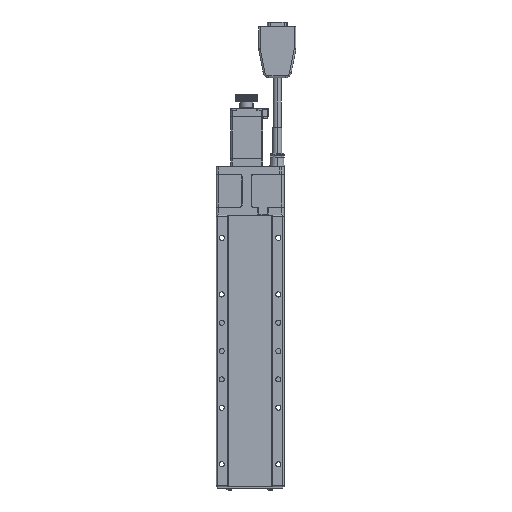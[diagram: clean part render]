
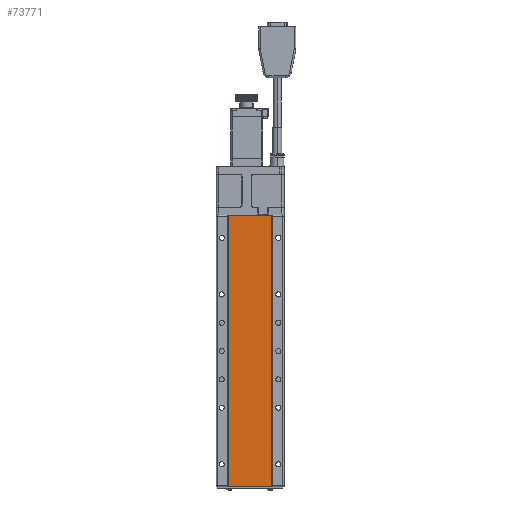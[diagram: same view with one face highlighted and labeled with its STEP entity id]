
A CAD part, front view. The second image highlights one B-rep face of the part: STEP entity #73771.
In plain terms, the highlighted planar face has unit normal (0, -1, 0).
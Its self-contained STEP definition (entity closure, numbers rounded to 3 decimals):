
#4458 = DIRECTION ( 'NONE',  ( 1., 0., 0. ) ) ;
#4650 = VECTOR ( 'NONE', #127841, 1000. ) ;
#6643 = LINE ( 'NONE', #26626, #72002 ) ;
#7815 = DIRECTION ( 'NONE',  ( 0., 0., -1. ) ) ;
#8140 = PLANE ( 'NONE',  #41114 ) ;
#9254 = CARTESIAN_POINT ( 'NONE',  ( -19.3, 0.8, 0.3 ) ) ;
#11942 = LINE ( 'NONE', #22303, #57886 ) ;
#17628 = CARTESIAN_POINT ( 'NONE',  ( 19.3, 0.8, 239.9 ) ) ;
#22127 = CARTESIAN_POINT ( 'NONE',  ( -19.3, 0.8, 239.9 ) ) ;
#22303 = CARTESIAN_POINT ( 'NONE',  ( -19.3, 0.8, 239.9 ) ) ;
#26626 = CARTESIAN_POINT ( 'NONE',  ( -19.3, 0.8, 0.3 ) ) ;
#31781 = DIRECTION ( 'NONE',  ( -1., 0., 0. ) ) ;
#38447 = LINE ( 'NONE', #94581, #4650 ) ;
#41114 = AXIS2_PLACEMENT_3D ( 'NONE', #22127, #144046, #31781 ) ;
#52529 = CARTESIAN_POINT ( 'NONE',  ( 19.3, 0.8, 0.3 ) ) ;
#52900 = VERTEX_POINT ( 'NONE', #52529 ) ;
#53989 = FACE_OUTER_BOUND ( 'NONE', #119498, .T. ) ;
#57886 = VECTOR ( 'NONE', #99875, 1000. ) ;
#58468 = CARTESIAN_POINT ( 'NONE',  ( -19.3, 0.8, 0.3 ) ) ;
#59170 = EDGE_CURVE ( 'NONE', #75673, #52900, #6643, .T. ) ;
#62705 = ORIENTED_EDGE ( 'NONE', *, *, #105264, .T. ) ;
#65430 = LINE ( 'NONE', #9254, #75724 ) ;
#72002 = VECTOR ( 'NONE', #4458, 1000. ) ;
#73771 = ADVANCED_FACE ( 'NONE', ( #53989 ), #8140, .F. ) ;
#75673 = VERTEX_POINT ( 'NONE', #58468 ) ;
#75724 = VECTOR ( 'NONE', #7815, 1000. ) ;
#80063 = EDGE_CURVE ( 'NONE', #136114, #106203, #11942, .T. ) ;
#93243 = ORIENTED_EDGE ( 'NONE', *, *, #97638, .T. ) ;
#94581 = CARTESIAN_POINT ( 'NONE',  ( 19.3, 0.8, 0.3 ) ) ;
#97638 = EDGE_CURVE ( 'NONE', #106203, #75673, #65430, .T. ) ;
#99875 = DIRECTION ( 'NONE',  ( -1., 0., 0. ) ) ;
#105264 = EDGE_CURVE ( 'NONE', #52900, #136114, #38447, .T. ) ;
#106203 = VERTEX_POINT ( 'NONE', #137749 ) ;
#119498 = EDGE_LOOP ( 'NONE', ( #93243, #143644, #62705, #128506 ) ) ;
#127841 = DIRECTION ( 'NONE',  ( 0., 0., 1. ) ) ;
#128506 = ORIENTED_EDGE ( 'NONE', *, *, #80063, .T. ) ;
#136114 = VERTEX_POINT ( 'NONE', #17628 ) ;
#137749 = CARTESIAN_POINT ( 'NONE',  ( -19.3, 0.8, 239.9 ) ) ;
#143644 = ORIENTED_EDGE ( 'NONE', *, *, #59170, .T. ) ;
#144046 = DIRECTION ( 'NONE',  ( 0., 1., 0. ) ) ;
